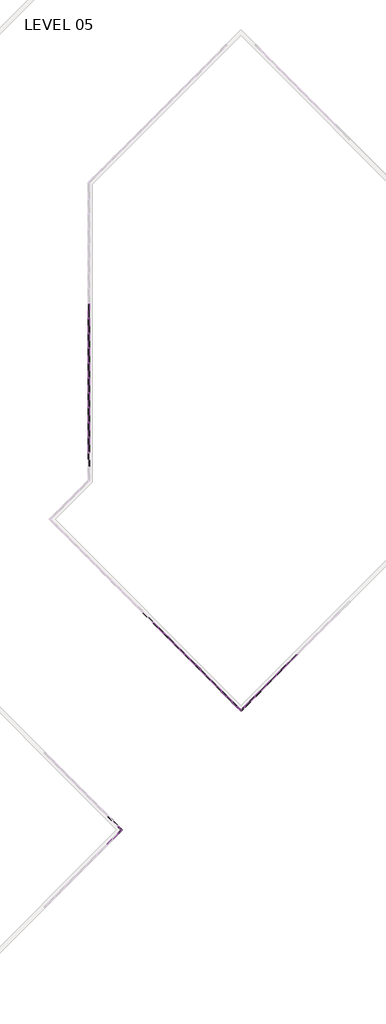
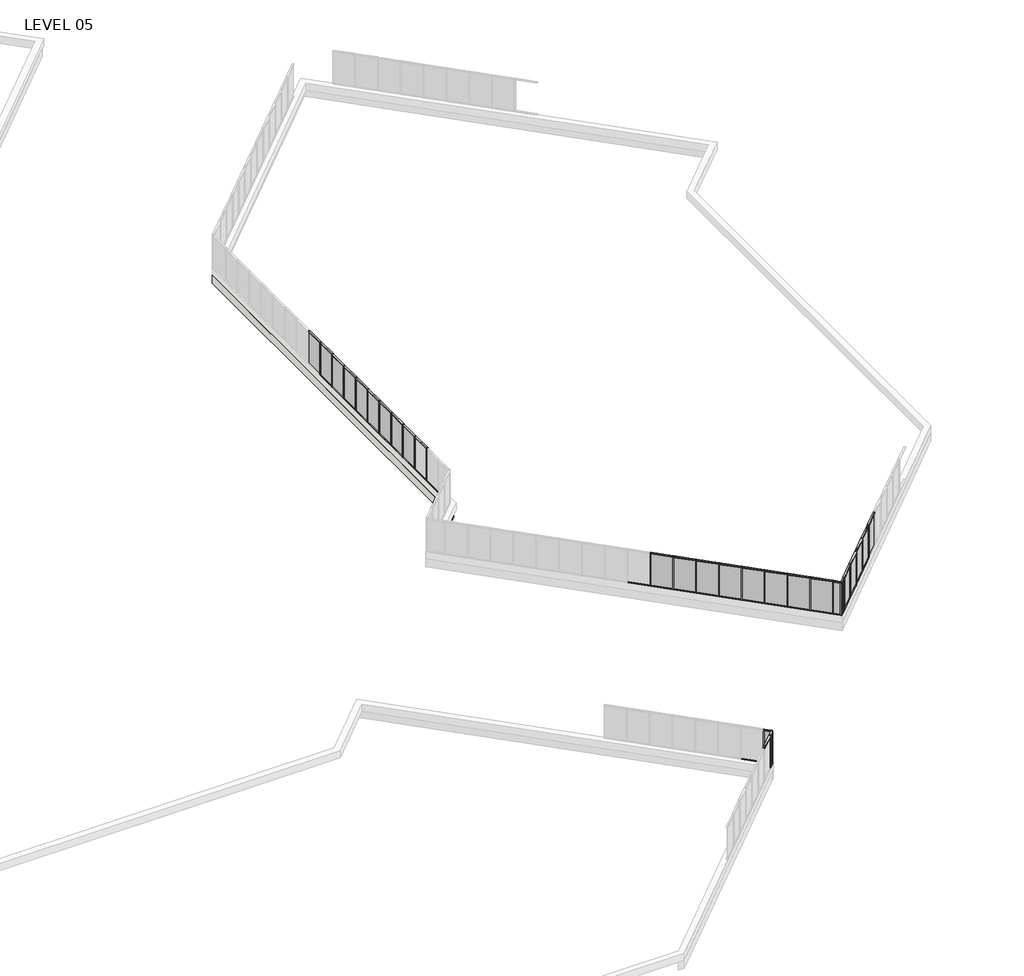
# One storey, part 10 of 17: 86 members, 26 plates, 1 wall.
"""IFC4 building model written with IfcOpenShell, lengths in millimetres."""

from ifc_helpers import new_model, si_unit, origin, place, context, project, spatial, faceted_brep, transform, mapped, element, save
from components import member_5247f267, member_e44af9ab, member_800970d4, member_ac5115e9, member_25b26a38, member_910c08c9, plate_c01932d8, plate_6d527a83, plate_67294edd

model = new_model("IFC4")

# Units and contexts
model_context = context("Model", 3, world=origin())
ifc_project = project(units=[si_unit("LENGTHUNIT", "METRE", prefix="MILLI")], contexts=[model_context])

# Site, building, storey
site = spatial("IfcSite", under=ifc_project)
building = spatial("IfcBuilding", under=site)
storey = spatial("IfcBuildingStorey", under=building, Name="LEVEL 05", Elevation=15824.2)

# Members
placement = place(None, origin())
member_shape = member_5247f267(model_context)
element("IfcMember", 1, ObjectType="Rectangular Mullion : 2\" x 4.5\" rectangular", at=placement, inside=storey, context=model_context, shape_type="MappedRepresentation", body=[
    mapped(member_shape, transform((64227.3404937, 10894.4485141, 15824.2), x_axis=(0.0, 0.0, -1.0), y_axis=(0.7071067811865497, 0.7071067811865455, 0.0), z_axis=(0.7071067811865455, -0.7071067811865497, 0.0))),
])
element("IfcMember", 2, ObjectType="Rectangular Mullion : 2\" x 4.5\" rectangular", at=placement, inside=storey, context=model_context, shape_type="MappedRepresentation", body=[
    mapped(member_shape, transform((64227.5191663, 10093.8459028, 18415.0), x_axis=(0.0, 0.0, 1.0), y_axis=(0.7071067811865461, -0.7071067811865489, 0.0), z_axis=(0.7071067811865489, 0.7071067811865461, 0.0))),
])
member_2_shape = member_e44af9ab(model_context)
element("IfcMember", 3, ObjectType="Rectangular Mullion : 2\" x 4.5\" rectangular", at=placement, inside=storey, context=model_context, shape_type="MappedRepresentation", body=[
    mapped(member_2_shape, transform((64245.4796786, 10111.8064151, 15824.2), x_axis=(0.7071067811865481, 0.7071067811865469, 0.0), y_axis=(0.7071067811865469, -0.7071067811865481, 0.0), z_axis=(0.0, 0.0, -1.0))),
])
element("IfcMember", 4, ObjectType="Rectangular Mullion : 2\" x 4.5\" rectangular", at=placement, inside=storey, context=model_context, shape_type="MappedRepresentation", body=[
    mapped(member_2_shape, transform((64245.3010059, 10876.4880018, 15824.2), x_axis=(-0.7071067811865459, 0.7071067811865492, 0.0), y_axis=(0.7071067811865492, 0.7071067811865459, 0.0), z_axis=(0.0, 0.0, -1.0))),
])
member_3_shape = member_800970d4(model_context)
element("IfcMember", 5, ObjectType="Rectangular Mullion : 2\" x 4.5\" rectangular", at=placement, inside=storey, context=model_context, shape_type="MappedRepresentation", body=[
    mapped(member_3_shape, transform((64627.7311356, 10494.0578721, 15824.2), x_axis=(0.7071067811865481, 0.7071067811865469, 0.0), y_axis=(0.7071067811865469, -0.7071067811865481, 0.0), z_axis=(0.0, 0.0, -1.0))),
])
element("IfcMember", 6, ObjectType="Rectangular Mullion : 2\" x 4.5\" rectangular", at=placement, inside=storey, context=model_context, shape_type="MappedRepresentation", body=[
    mapped(member_3_shape, transform((64627.7311356, 10494.0578721, 18415.0), x_axis=(0.7071067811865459, -0.7071067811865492, 0.0), y_axis=(0.7071067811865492, 0.7071067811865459, 0.0), z_axis=(0.0, 0.0, 1.0))),
])
member_4_shape = member_ac5115e9(model_context)
element("IfcMember", 7, ObjectType="Rectangular Mullion : 2\" x 4.5\" rectangular", at=placement, inside=storey, context=model_context, shape_type="MappedRepresentation", body=[
    mapped(member_4_shape, transform((64591.8101111, 10458.1368476, 18415.0), x_axis=(0.0, 0.0, 1.0), y_axis=(0.7071067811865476, -0.7071067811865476, 0.0), z_axis=(0.7071067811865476, 0.7071067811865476, 0.0))),
])
element("IfcMember", 8, ObjectType="Rectangular Mullion : 2\" x 4.5\" rectangular", at=placement, inside=storey, context=model_context, shape_type="MappedRepresentation", body=[
    mapped(member_4_shape, transform((64263.4401908, 10129.7669273, 15824.2), x_axis=(0.0, 0.0, -1.0), y_axis=(0.7071067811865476, -0.7071067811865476, 0.0), z_axis=(-0.7071067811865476, -0.7071067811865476, 0.0))),
])
member_5_shape = member_25b26a38(model_context)
element("IfcMember", 9, ObjectType="Rectangular Mullion : 2\" x 4.5\" rectangular", at=placement, inside=storey, context=model_context, shape_type="MappedRepresentation", body=[
    mapped(member_5_shape, transform((64591.8101111, 10529.9788966, 15824.2), x_axis=(0.0, 0.0, -1.0), y_axis=(0.7071067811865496, 0.7071067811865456, 0.0), z_axis=(0.7071067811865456, -0.7071067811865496, 0.0))),
])
element("IfcMember", 10, ObjectType="Rectangular Mullion : 2\" x 4.5\" rectangular", at=placement, inside=storey, context=model_context, shape_type="MappedRepresentation", body=[
    mapped(member_5_shape, transform((64263.2615182, 10858.5274896, 18415.0), x_axis=(0.0, 0.0, 1.0), y_axis=(0.7071067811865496, 0.7071067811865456, 0.0), z_axis=(-0.7071067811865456, 0.7071067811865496, 0.0))),
])
element("IfcMember", 11, ObjectType="Rectangular Mullion : 2\" x 4.5\" rectangular", at=placement, inside=storey, context=model_context, shape_type="MappedRepresentation", body=[
    mapped(member_shape, transform((78327.7024202, 24194.0291567, 18415.0), x_axis=(0.0, 0.0, 1.0), y_axis=(-0.7071067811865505, 0.7071067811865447, 0.0), z_axis=(-0.7071067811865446, -0.7071067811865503, 0.0))),
])
element("IfcMember", 12, ObjectType="Rectangular Mullion : 2\" x 4.5\" rectangular", at=placement, inside=storey, context=model_context, shape_type="MappedRepresentation", body=[
    mapped(member_shape, transform((81560.5946238, 27426.9213603, 18415.0), x_axis=(0.0, 0.0, 1.0), y_axis=(-0.7071067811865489, 0.7071067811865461, 0.0), z_axis=(-0.7071067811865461, -0.7071067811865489, 0.0))),
])
element("IfcMember", 13, ObjectType="Rectangular Mullion : 2\" x 4.5\" rectangular", at=placement, inside=storey, context=model_context, shape_type="MappedRepresentation", body=[
    mapped(member_shape, transform((80482.9638893, 26349.2906258, 18415.0), x_axis=(0.0, 0.0, 1.0), y_axis=(-0.7071067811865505, 0.7071067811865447, 0.0), z_axis=(-0.7071067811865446, -0.7071067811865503, 0.0))),
])
element("IfcMember", 14, ObjectType="Rectangular Mullion : 2\" x 4.5\" rectangular", at=placement, inside=storey, context=model_context, shape_type="MappedRepresentation", body=[
    mapped(member_shape, transform((79405.3331548, 25271.6598913, 18415.0), x_axis=(0.0, 0.0, 1.0), y_axis=(-0.7071067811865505, 0.7071067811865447, 0.0), z_axis=(-0.7071067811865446, -0.7071067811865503, 0.0))),
])
element("IfcMember", 15, ObjectType="Rectangular Mullion : 2\" x 4.5\" rectangular", at=placement, inside=storey, context=model_context, shape_type="MappedRepresentation", body=[
    mapped(member_shape, transform((77250.0716857, 23116.3984222, 18415.0), x_axis=(0.0, 0.0, 1.0), y_axis=(-0.7071067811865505, 0.7071067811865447, 0.0), z_axis=(-0.7071067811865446, -0.7071067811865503, 0.0))),
])
element("IfcMember", 16, ObjectType="Rectangular Mullion : 2\" x 4.5\" rectangular", at=placement, inside=storey, context=model_context, shape_type="MappedRepresentation", body=[
    mapped(member_shape, transform((75407.7593644, 24158.2868049, 18415.0), x_axis=(0.0, 0.0, 1.0), y_axis=(0.7071067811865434, 0.7071067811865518, 0.0), z_axis=(-0.7071067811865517, 0.7071067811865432, 0.0))),
])
element("IfcMember", 17, ObjectType="Rectangular Mullion : 2\" x 4.5\" rectangular", at=placement, inside=storey, context=model_context, shape_type="MappedRepresentation", body=[
    mapped(member_shape, transform((74330.1286299, 25235.9175394, 18415.0), x_axis=(0.0, 0.0, 1.0), y_axis=(0.7071067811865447, 0.7071067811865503, 0.0), z_axis=(-0.7071067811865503, 0.7071067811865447, 0.0))),
])
element("IfcMember", 18, ObjectType="Rectangular Mullion : 2\" x 4.5\" rectangular", at=placement, inside=storey, context=model_context, shape_type="MappedRepresentation", body=[
    mapped(member_shape, transform((73252.4978954, 26313.5482739, 18415.0), x_axis=(0.0, 0.0, 1.0), y_axis=(0.7071067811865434, 0.7071067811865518, 0.0), z_axis=(-0.7071067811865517, 0.7071067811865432, 0.0))),
])
element("IfcMember", 19, ObjectType="Rectangular Mullion : 2\" x 4.5\" rectangular", at=placement, inside=storey, context=model_context, shape_type="MappedRepresentation", body=[
    mapped(member_shape, transform((71097.2364263, 28468.809743, 18415.0), x_axis=(0.0, 0.0, 1.0), y_axis=(0.7071067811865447, 0.7071067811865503, 0.0), z_axis=(-0.7071067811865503, 0.7071067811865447, 0.0))),
])
element("IfcMember", 20, ObjectType="Rectangular Mullion : 2\" x 4.5\" rectangular", at=placement, inside=storey, context=model_context, shape_type="MappedRepresentation", body=[
    mapped(member_shape, transform((70019.6056918, 29546.4404775, 18415.0), x_axis=(0.0, 0.0, 1.0), y_axis=(0.7071067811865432, 0.7071067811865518, 0.0), z_axis=(-0.7071067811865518, 0.7071067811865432, 0.0))),
])
element("IfcMember", 21, ObjectType="Rectangular Mullion : 2\" x 4.5\" rectangular", at=placement, inside=storey, context=model_context, shape_type="MappedRepresentation", body=[
    mapped(member_shape, transform((68941.9749572, 30624.071212, 18415.0), x_axis=(0.0, 0.0, 1.0), y_axis=(0.7071067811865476, 0.7071067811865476, 0.0), z_axis=(-0.7071067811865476, 0.7071067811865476, 0.0))),
])
element("IfcMember", 22, ObjectType="Rectangular Mullion : 2\" x 4.5\" rectangular", at=placement, inside=storey, context=model_context, shape_type="MappedRepresentation", body=[
    mapped(member_shape, transform((67864.3442227, 31701.7019466, 18415.0), x_axis=(0.0, 0.0, 1.0), y_axis=(0.7071067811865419, 0.7071067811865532, 0.0), z_axis=(-0.7071067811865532, 0.7071067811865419, 0.0))),
])
element("IfcMember", 23, ObjectType="Rectangular Mullion : 2\" x 4.5\" rectangular", at=placement, inside=storey, context=model_context, shape_type="MappedRepresentation", body=[
    mapped(member_shape, transform((72174.8671608, 27391.1790085, 18415.0), x_axis=(0.0, 0.0, 1.0), y_axis=(0.7071067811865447, 0.7071067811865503, 0.0), z_axis=(-0.7071067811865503, 0.7071067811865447, 0.0))),
])
element("IfcMember", 24, ObjectType="Rectangular Mullion : 2\" x 4.5\" rectangular", at=placement, inside=storey, context=model_context, shape_type="MappedRepresentation", body=[
    mapped(member_shape, transform((61263.7847164, 62877.3675885, 18415.0), x_axis=(0.0, 0.0, 1.0), y_axis=(-1.0, 0.0, 0.0), z_axis=(0.0, -1.0, 0.0))),
])
element("IfcMember", 25, ObjectType="Rectangular Mullion : 2\" x 4.5\" rectangular", at=placement, inside=storey, context=model_context, shape_type="MappedRepresentation", body=[
    mapped(member_shape, transform((61263.7847164, 59829.3675885, 18415.0), x_axis=(0.0, 0.0, 1.0), y_axis=(-1.0, 0.0, 0.0), z_axis=(0.0, -1.0, 0.0))),
])
element("IfcMember", 26, ObjectType="Rectangular Mullion : 2\" x 4.5\" rectangular", at=placement, inside=storey, context=model_context, shape_type="MappedRepresentation", body=[
    mapped(member_shape, transform((61263.7847164, 58305.3675885, 18415.0), x_axis=(0.0, 0.0, 1.0), y_axis=(-1.0, 0.0, 0.0), z_axis=(0.0, -1.0, 0.0))),
])
element("IfcMember", 27, ObjectType="Rectangular Mullion : 2\" x 4.5\" rectangular", at=placement, inside=storey, context=model_context, shape_type="MappedRepresentation", body=[
    mapped(member_shape, transform((61263.7847164, 56781.3675885, 18415.0), x_axis=(0.0, 0.0, 1.0), y_axis=(-1.0, 0.0, 0.0), z_axis=(0.0, -1.0, 0.0))),
])
element("IfcMember", 28, ObjectType="Rectangular Mullion : 2\" x 4.5\" rectangular", at=placement, inside=storey, context=model_context, shape_type="MappedRepresentation", body=[
    mapped(member_shape, transform((61263.7847164, 55257.3675885, 18415.0), x_axis=(0.0, 0.0, 1.0), y_axis=(-1.0, 0.0, 0.0), z_axis=(0.0, -1.0, 0.0))),
])
element("IfcMember", 29, ObjectType="Rectangular Mullion : 2\" x 4.5\" rectangular", at=placement, inside=storey, context=model_context, shape_type="MappedRepresentation", body=[
    mapped(member_shape, transform((61263.7847164, 52209.3675885, 18415.0), x_axis=(0.0, 0.0, 1.0), y_axis=(-1.0, 0.0, 0.0), z_axis=(0.0, -1.0, 0.0))),
])
element("IfcMember", 30, ObjectType="Rectangular Mullion : 2\" x 4.5\" rectangular", at=placement, inside=storey, context=model_context, shape_type="MappedRepresentation", body=[
    mapped(member_shape, transform((61263.7847164, 50685.3675885, 18415.0), x_axis=(0.0, 0.0, 1.0), y_axis=(-1.0, 0.0, 0.0), z_axis=(0.0, -1.0, 0.0))),
])
element("IfcMember", 31, ObjectType="Rectangular Mullion : 2\" x 4.5\" rectangular", at=placement, inside=storey, context=model_context, shape_type="MappedRepresentation", body=[
    mapped(member_shape, transform((61263.7847164, 49161.3675885, 18415.0), x_axis=(0.0, 0.0, 1.0), y_axis=(-1.0, 0.0, 0.0), z_axis=(0.0, -1.0, 0.0))),
])
element("IfcMember", 32, ObjectType="Rectangular Mullion : 2\" x 4.5\" rectangular", at=placement, inside=storey, context=model_context, shape_type="MappedRepresentation", body=[
    mapped(member_shape, transform((61263.7847164, 53733.3675885, 18415.0), x_axis=(0.0, 0.0, 1.0), y_axis=(-1.0, 0.0, 0.0), z_axis=(0.0, -1.0, 0.0))),
])
element("IfcMember", 33, ObjectType="Rectangular Mullion : 2\" x 4.5\" rectangular", at=placement, inside=storey, context=model_context, shape_type="MappedRepresentation", body=[
    mapped(member_shape, transform((61263.7847164, 61353.3675885, 18415.0), x_axis=(0.0, 0.0, 1.0), y_axis=(-1.0, 0.0, 0.0), z_axis=(0.0, -1.0, 0.0))),
])
element("IfcMember", 34, ObjectType="Rectangular Mullion : 2\" x 4.5\" rectangular", at=placement, inside=storey, context=model_context, shape_type="MappedRepresentation", body=[
    mapped(member_shape, transform((78291.7813957, 24158.1081322, 15824.2), x_axis=(0.0, 0.0, -1.0), y_axis=(-0.7071067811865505, 0.7071067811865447, 0.0), z_axis=(0.7071067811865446, 0.7071067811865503, 0.0))),
])
element("IfcMember", 35, ObjectType="Rectangular Mullion : 2\" x 4.5\" rectangular", at=placement, inside=storey, context=model_context, shape_type="MappedRepresentation", body=[
    mapped(member_shape, transform((81524.6735993, 27391.0003358, 15824.2), x_axis=(0.0, 0.0, -1.0), y_axis=(-0.707106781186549, 0.7071067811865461, 0.0), z_axis=(0.7071067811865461, 0.707106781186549, 0.0))),
])
element("IfcMember", 36, ObjectType="Rectangular Mullion : 2\" x 4.5\" rectangular", at=placement, inside=storey, context=model_context, shape_type="MappedRepresentation", body=[
    mapped(member_shape, transform((80447.0428648, 26313.3696013, 15824.2), x_axis=(0.0, 0.0, -1.0), y_axis=(-0.7071067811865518, 0.7071067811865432, 0.0), z_axis=(0.7071067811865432, 0.7071067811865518, 0.0))),
])
element("IfcMember", 37, ObjectType="Rectangular Mullion : 2\" x 4.5\" rectangular", at=placement, inside=storey, context=model_context, shape_type="MappedRepresentation", body=[
    mapped(member_shape, transform((79369.4121303, 25235.7388668, 15824.2), x_axis=(0.0, 0.0, -1.0), y_axis=(-0.7071067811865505, 0.7071067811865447, 0.0), z_axis=(0.7071067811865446, 0.7071067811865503, 0.0))),
])
element("IfcMember", 38, ObjectType="Rectangular Mullion : 2\" x 4.5\" rectangular", at=placement, inside=storey, context=model_context, shape_type="MappedRepresentation", body=[
    mapped(member_shape, transform((75371.8383399, 24194.2078294, 15824.2), x_axis=(0.0, 0.0, -1.0), y_axis=(0.7071067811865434, 0.7071067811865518, 0.0), z_axis=(0.7071067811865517, -0.7071067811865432, 0.0))),
])
element("IfcMember", 39, ObjectType="Rectangular Mullion : 2\" x 4.5\" rectangular", at=placement, inside=storey, context=model_context, shape_type="MappedRepresentation", body=[
    mapped(member_shape, transform((74294.2076054, 25271.8385639, 15824.2), x_axis=(0.0, 0.0, -1.0), y_axis=(0.7071067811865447, 0.7071067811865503, 0.0), z_axis=(0.7071067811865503, -0.7071067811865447, 0.0))),
])
element("IfcMember", 40, ObjectType="Rectangular Mullion : 2\" x 4.5\" rectangular", at=placement, inside=storey, context=model_context, shape_type="MappedRepresentation", body=[
    mapped(member_shape, transform((73216.5768709, 26349.4692984, 15824.2), x_axis=(0.0, 0.0, -1.0), y_axis=(0.7071067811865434, 0.7071067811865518, 0.0), z_axis=(0.7071067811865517, -0.7071067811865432, 0.0))),
])
element("IfcMember", 41, ObjectType="Rectangular Mullion : 2\" x 4.5\" rectangular", at=placement, inside=storey, context=model_context, shape_type="MappedRepresentation", body=[
    mapped(member_shape, transform((71061.3154018, 28504.7307675, 15824.2), x_axis=(0.0, 0.0, -1.0), y_axis=(0.7071067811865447, 0.7071067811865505, 0.0), z_axis=(0.7071067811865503, -0.7071067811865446, 0.0))),
])
element("IfcMember", 42, ObjectType="Rectangular Mullion : 2\" x 4.5\" rectangular", at=placement, inside=storey, context=model_context, shape_type="MappedRepresentation", body=[
    mapped(member_shape, transform((69983.6846673, 29582.361502, 15824.2), x_axis=(0.0, 0.0, -1.0), y_axis=(0.7071067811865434, 0.7071067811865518, 0.0), z_axis=(0.7071067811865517, -0.7071067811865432, 0.0))),
])
element("IfcMember", 43, ObjectType="Rectangular Mullion : 2\" x 4.5\" rectangular", at=placement, inside=storey, context=model_context, shape_type="MappedRepresentation", body=[
    mapped(member_shape, transform((68906.0539328, 30659.9922365, 15824.2), x_axis=(0.0, 0.0, -1.0), y_axis=(0.7071067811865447, 0.7071067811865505, 0.0), z_axis=(0.7071067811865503, -0.7071067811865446, 0.0))),
])
element("IfcMember", 44, ObjectType="Rectangular Mullion : 2\" x 4.5\" rectangular", at=placement, inside=storey, context=model_context, shape_type="MappedRepresentation", body=[
    mapped(member_shape, transform((72138.9461363, 27427.1000329, 15824.2), x_axis=(0.0, 0.0, -1.0), y_axis=(0.7071067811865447, 0.7071067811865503, 0.0), z_axis=(0.7071067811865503, -0.7071067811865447, 0.0))),
])
element("IfcMember", 45, ObjectType="Rectangular Mullion : 2\" x 4.5\" rectangular", at=placement, inside=storey, context=model_context, shape_type="MappedRepresentation", body=[
    mapped(member_shape, transform((76449.4690745, 23116.5770948, 15824.2), x_axis=(0.0, 0.0, -1.0), y_axis=(0.7071067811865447, 0.7071067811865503, 0.0), z_axis=(0.7071067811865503, -0.7071067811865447, 0.0))),
])
element("IfcMember", 46, ObjectType="Rectangular Mullion : 2\" x 4.5\" rectangular", at=placement, inside=storey, context=model_context, shape_type="MappedRepresentation", body=[
    mapped(member_shape, transform((61263.7847164, 62826.5675885, 15824.2), x_axis=(0.0, 0.0, -1.0), y_axis=(-1.0, 0.0, 0.0), z_axis=(0.0, 1.0, 0.0))),
])
element("IfcMember", 47, ObjectType="Rectangular Mullion : 2\" x 4.5\" rectangular", at=placement, inside=storey, context=model_context, shape_type="MappedRepresentation", body=[
    mapped(member_shape, transform((61263.7847164, 59778.5675885, 15824.2), x_axis=(0.0, 0.0, -1.0), y_axis=(-1.0, 0.0, 0.0), z_axis=(0.0, 1.0, 0.0))),
])
element("IfcMember", 48, ObjectType="Rectangular Mullion : 2\" x 4.5\" rectangular", at=placement, inside=storey, context=model_context, shape_type="MappedRepresentation", body=[
    mapped(member_shape, transform((61263.7847164, 58254.5675885, 15824.2), x_axis=(0.0, 0.0, -1.0), y_axis=(-1.0, 0.0, 0.0), z_axis=(0.0, 1.0, 0.0))),
])
element("IfcMember", 49, ObjectType="Rectangular Mullion : 2\" x 4.5\" rectangular", at=placement, inside=storey, context=model_context, shape_type="MappedRepresentation", body=[
    mapped(member_shape, transform((61263.7847164, 56730.5675885, 15824.2), x_axis=(0.0, 0.0, -1.0), y_axis=(-1.0, 0.0, 0.0), z_axis=(0.0, 1.0, 0.0))),
])
element("IfcMember", 50, ObjectType="Rectangular Mullion : 2\" x 4.5\" rectangular", at=placement, inside=storey, context=model_context, shape_type="MappedRepresentation", body=[
    mapped(member_shape, transform((61263.7847164, 55206.5675885, 15824.2), x_axis=(0.0, 0.0, -1.0), y_axis=(-1.0, 0.0, 0.0), z_axis=(0.0, 1.0, 0.0))),
])
element("IfcMember", 51, ObjectType="Rectangular Mullion : 2\" x 4.5\" rectangular", at=placement, inside=storey, context=model_context, shape_type="MappedRepresentation", body=[
    mapped(member_shape, transform((61263.7847164, 52158.5675885, 15824.2), x_axis=(0.0, 0.0, -1.0), y_axis=(-1.0, 0.0, 0.0), z_axis=(0.0, 1.0, 0.0))),
])
element("IfcMember", 52, ObjectType="Rectangular Mullion : 2\" x 4.5\" rectangular", at=placement, inside=storey, context=model_context, shape_type="MappedRepresentation", body=[
    mapped(member_shape, transform((61263.7847164, 50634.5675885, 15824.2), x_axis=(0.0, 0.0, -1.0), y_axis=(-1.0, 0.0, 0.0), z_axis=(0.0, 1.0, 0.0))),
])
element("IfcMember", 53, ObjectType="Rectangular Mullion : 2\" x 4.5\" rectangular", at=placement, inside=storey, context=model_context, shape_type="MappedRepresentation", body=[
    mapped(member_shape, transform((61263.7847164, 49110.5675885, 15824.2), x_axis=(0.0, 0.0, -1.0), y_axis=(-1.0, 0.0, 0.0), z_axis=(0.0, 1.0, 0.0))),
])
element("IfcMember", 54, ObjectType="Rectangular Mullion : 2\" x 4.5\" rectangular", at=placement, inside=storey, context=model_context, shape_type="MappedRepresentation", body=[
    mapped(member_shape, transform((61263.7847164, 53682.5675885, 15824.2), x_axis=(0.0, 0.0, -1.0), y_axis=(-1.0, 0.0, 0.0), z_axis=(0.0, 1.0, 0.0))),
])
element("IfcMember", 55, ObjectType="Rectangular Mullion : 2\" x 4.5\" rectangular", at=placement, inside=storey, context=model_context, shape_type="MappedRepresentation", body=[
    mapped(member_shape, transform((61263.7847164, 61302.5675885, 15824.2), x_axis=(0.0, 0.0, -1.0), y_axis=(-1.0, 0.0, 0.0), z_axis=(0.0, 1.0, 0.0))),
])
element("IfcMember", 56, ObjectType="Rectangular Mullion : 2\" x 4.5\" rectangular", at=placement, inside=storey, context=model_context, shape_type="MappedRepresentation", body=[
    mapped(member_2_shape, transform((78309.741908, 24176.0686445, 15824.2), x_axis=(-0.7071067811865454, -0.7071067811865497, 0.0), y_axis=(-0.7071067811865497, 0.7071067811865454, 0.0), z_axis=(0.0, 0.0, -1.0))),
])
element("IfcMember", 57, ObjectType="Rectangular Mullion : 2\" x 4.5\" rectangular", at=placement, inside=storey, context=model_context, shape_type="MappedRepresentation", body=[
    mapped(member_2_shape, transform((81542.6341116, 27408.9608481, 15824.2), x_axis=(-0.7071067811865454, -0.7071067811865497, 0.0), y_axis=(-0.7071067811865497, 0.7071067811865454, 0.0), z_axis=(0.0, 0.0, -1.0))),
])
element("IfcMember", 58, ObjectType="Rectangular Mullion : 2\" x 4.5\" rectangular", at=placement, inside=storey, context=model_context, shape_type="MappedRepresentation", body=[
    mapped(member_2_shape, transform((80465.003377, 26331.3301135, 15824.2), x_axis=(-0.7071067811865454, -0.7071067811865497, 0.0), y_axis=(-0.7071067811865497, 0.7071067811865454, 0.0), z_axis=(0.0, 0.0, -1.0))),
])
element("IfcMember", 59, ObjectType="Rectangular Mullion : 2\" x 4.5\" rectangular", at=placement, inside=storey, context=model_context, shape_type="MappedRepresentation", body=[
    mapped(member_2_shape, transform((79387.3726425, 25253.699379, 15824.2), x_axis=(-0.7071067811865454, -0.7071067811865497, 0.0), y_axis=(-0.7071067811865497, 0.7071067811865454, 0.0), z_axis=(0.0, 0.0, -1.0))),
])
element("IfcMember", 60, ObjectType="Rectangular Mullion : 2\" x 4.5\" rectangular", at=placement, inside=storey, context=model_context, shape_type="MappedRepresentation", body=[
    mapped(member_2_shape, transform((77232.1111735, 23098.43791, 15824.2), x_axis=(-0.7071067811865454, -0.7071067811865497, 0.0), y_axis=(-0.7071067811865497, 0.7071067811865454, 0.0), z_axis=(0.0, 0.0, -1.0))),
])
element("IfcMember", 61, ObjectType="Rectangular Mullion : 2\" x 4.5\" rectangular", at=placement, inside=storey, context=model_context, shape_type="MappedRepresentation", body=[
    mapped(member_2_shape, transform((75389.7988522, 24176.2473171, 15824.2), x_axis=(-0.7071067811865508, 0.7071067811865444, 0.0), y_axis=(0.7071067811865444, 0.7071067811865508, 0.0), z_axis=(0.0, 0.0, -1.0))),
])
element("IfcMember", 62, ObjectType="Rectangular Mullion : 2\" x 4.5\" rectangular", at=placement, inside=storey, context=model_context, shape_type="MappedRepresentation", body=[
    mapped(member_2_shape, transform((74312.1681176, 25253.8780517, 15824.2), x_axis=(-0.7071067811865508, 0.7071067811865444, 0.0), y_axis=(0.7071067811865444, 0.7071067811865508, 0.0), z_axis=(0.0, 0.0, -1.0))),
])
element("IfcMember", 63, ObjectType="Rectangular Mullion : 2\" x 4.5\" rectangular", at=placement, inside=storey, context=model_context, shape_type="MappedRepresentation", body=[
    mapped(member_2_shape, transform((73234.5373831, 26331.5087862, 15824.2), x_axis=(-0.7071067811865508, 0.7071067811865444, 0.0), y_axis=(0.7071067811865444, 0.7071067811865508, 0.0), z_axis=(0.0, 0.0, -1.0))),
])
element("IfcMember", 64, ObjectType="Rectangular Mullion : 2\" x 4.5\" rectangular", at=placement, inside=storey, context=model_context, shape_type="MappedRepresentation", body=[
    mapped(member_2_shape, transform((71079.2759141, 28486.7702552, 15824.2), x_axis=(-0.7071067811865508, 0.7071067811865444, 0.0), y_axis=(0.7071067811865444, 0.7071067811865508, 0.0), z_axis=(0.0, 0.0, -1.0))),
])
element("IfcMember", 65, ObjectType="Rectangular Mullion : 2\" x 4.5\" rectangular", at=placement, inside=storey, context=model_context, shape_type="MappedRepresentation", body=[
    mapped(member_2_shape, transform((70001.6451795, 29564.4009898, 15824.2), x_axis=(-0.7071067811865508, 0.7071067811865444, 0.0), y_axis=(0.7071067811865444, 0.7071067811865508, 0.0), z_axis=(0.0, 0.0, -1.0))),
])
element("IfcMember", 66, ObjectType="Rectangular Mullion : 2\" x 4.5\" rectangular", at=placement, inside=storey, context=model_context, shape_type="MappedRepresentation", body=[
    mapped(member_2_shape, transform((68924.014445, 30642.0317243, 15824.2), x_axis=(-0.7071067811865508, 0.7071067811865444, 0.0), y_axis=(0.7071067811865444, 0.7071067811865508, 0.0), z_axis=(0.0, 0.0, -1.0))),
])
element("IfcMember", 67, ObjectType="Rectangular Mullion : 2\" x 4.5\" rectangular", at=placement, inside=storey, context=model_context, shape_type="MappedRepresentation", body=[
    mapped(member_2_shape, transform((67846.3837105, 31719.6624588, 15824.2), x_axis=(-0.7071067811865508, 0.7071067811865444, 0.0), y_axis=(0.7071067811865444, 0.7071067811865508, 0.0), z_axis=(0.0, 0.0, -1.0))),
])
element("IfcMember", 68, ObjectType="Rectangular Mullion : 2\" x 4.5\" rectangular", at=placement, inside=storey, context=model_context, shape_type="MappedRepresentation", body=[
    mapped(member_2_shape, transform((72156.9066486, 27409.1395207, 15824.2), x_axis=(-0.7071067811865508, 0.7071067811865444, 0.0), y_axis=(0.7071067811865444, 0.7071067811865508, 0.0), z_axis=(0.0, 0.0, -1.0))),
])
element("IfcMember", 69, ObjectType="Rectangular Mullion : 2\" x 4.5\" rectangular", at=placement, inside=storey, context=model_context, shape_type="MappedRepresentation", body=[
    mapped(member_2_shape, transform((76467.4295867, 23098.6165826, 15824.2), x_axis=(-0.7071067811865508, 0.7071067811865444, 0.0), y_axis=(0.7071067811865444, 0.7071067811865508, 0.0), z_axis=(0.0, 0.0, -1.0))),
])
element("IfcMember", 70, ObjectType="Rectangular Mullion : 2\" x 4.5\" rectangular", at=placement, inside=storey, context=model_context, shape_type="MappedRepresentation", body=[
    mapped(member_2_shape, transform((61263.7847164, 62851.9675885, 15824.2), x_axis=(0.0, -1.0, 0.0), y_axis=(-1.0, 0.0, 0.0), z_axis=(0.0, 0.0, -1.0))),
])
element("IfcMember", 71, ObjectType="Rectangular Mullion : 2\" x 4.5\" rectangular", at=placement, inside=storey, context=model_context, shape_type="MappedRepresentation", body=[
    mapped(member_2_shape, transform((61263.7847164, 59803.9675885, 15824.2), x_axis=(0.0, -1.0, 0.0), y_axis=(-1.0, 0.0, 0.0), z_axis=(0.0, 0.0, -1.0))),
])
element("IfcMember", 72, ObjectType="Rectangular Mullion : 2\" x 4.5\" rectangular", at=placement, inside=storey, context=model_context, shape_type="MappedRepresentation", body=[
    mapped(member_2_shape, transform((61263.7847164, 58279.9675885, 15824.2), x_axis=(0.0, -1.0, 0.0), y_axis=(-1.0, 0.0, 0.0), z_axis=(0.0, 0.0, -1.0))),
])
element("IfcMember", 73, ObjectType="Rectangular Mullion : 2\" x 4.5\" rectangular", at=placement, inside=storey, context=model_context, shape_type="MappedRepresentation", body=[
    mapped(member_2_shape, transform((61263.7847164, 56755.9675885, 15824.2), x_axis=(0.0, -1.0, 0.0), y_axis=(-1.0, 0.0, 0.0), z_axis=(0.0, 0.0, -1.0))),
])
element("IfcMember", 74, ObjectType="Rectangular Mullion : 2\" x 4.5\" rectangular", at=placement, inside=storey, context=model_context, shape_type="MappedRepresentation", body=[
    mapped(member_2_shape, transform((61263.7847164, 55231.9675885, 15824.2), x_axis=(0.0, -1.0, 0.0), y_axis=(-1.0, 0.0, 0.0), z_axis=(0.0, 0.0, -1.0))),
])
element("IfcMember", 75, ObjectType="Rectangular Mullion : 2\" x 4.5\" rectangular", at=placement, inside=storey, context=model_context, shape_type="MappedRepresentation", body=[
    mapped(member_2_shape, transform((61263.7847164, 52183.9675885, 15824.2), x_axis=(0.0, -1.0, 0.0), y_axis=(-1.0, 0.0, 0.0), z_axis=(0.0, 0.0, -1.0))),
])
element("IfcMember", 76, ObjectType="Rectangular Mullion : 2\" x 4.5\" rectangular", at=placement, inside=storey, context=model_context, shape_type="MappedRepresentation", body=[
    mapped(member_2_shape, transform((61263.7847164, 50659.9675885, 15824.2), x_axis=(0.0, -1.0, 0.0), y_axis=(-1.0, 0.0, 0.0), z_axis=(0.0, 0.0, -1.0))),
])
element("IfcMember", 77, ObjectType="Rectangular Mullion : 2\" x 4.5\" rectangular", at=placement, inside=storey, context=model_context, shape_type="MappedRepresentation", body=[
    mapped(member_2_shape, transform((61263.7847164, 49135.9675885, 15824.2), x_axis=(0.0, -1.0, 0.0), y_axis=(-1.0, 0.0, 0.0), z_axis=(0.0, 0.0, -1.0))),
])
element("IfcMember", 78, ObjectType="Rectangular Mullion : 2\" x 4.5\" rectangular", at=placement, inside=storey, context=model_context, shape_type="MappedRepresentation", body=[
    mapped(member_2_shape, transform((61263.7847164, 53707.9675885, 15824.2), x_axis=(0.0, -1.0, 0.0), y_axis=(-1.0, 0.0, 0.0), z_axis=(0.0, 0.0, -1.0))),
])
element("IfcMember", 79, ObjectType="Rectangular Mullion : 2\" x 4.5\" rectangular", at=placement, inside=storey, context=model_context, shape_type="MappedRepresentation", body=[
    mapped(member_2_shape, transform((61263.7847164, 61327.9675885, 15824.2), x_axis=(0.0, -1.0, 0.0), y_axis=(-1.0, 0.0, 0.0), z_axis=(0.0, 0.0, -1.0))),
])
element("IfcMember", 80, ObjectType="Rectangular Mullion : 2\" x 4.5\" rectangular", at=placement, inside=storey, context=model_context, shape_type="MappedRepresentation", body=[
    mapped(member_3_shape, transform((76849.8597164, 22716.1864529, 15824.2), x_axis=(-0.7071067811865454, -0.7071067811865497, 0.0), y_axis=(-0.7071067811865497, 0.7071067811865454, 0.0), z_axis=(0.0, 0.0, -1.0))),
])
element("IfcMember", 81, ObjectType="Rectangular Mullion : 2\" x 4.5\" rectangular", at=placement, inside=storey, context=model_context, shape_type="MappedRepresentation", body=[
    mapped(member_3_shape, transform((76849.8597164, 22716.1864529, 18415.0), x_axis=(0.7071067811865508, -0.7071067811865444, 0.0), y_axis=(0.7071067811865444, 0.7071067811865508, 0.0), z_axis=(0.0, 0.0, 1.0))),
])
element("IfcMember", 82, ObjectType="Rectangular Mullion : 2\" x 4.5\" rectangular", at=placement, inside=storey, context=model_context, shape_type="MappedRepresentation", body=[
    mapped(member_5_shape, transform((76485.3900989, 23080.6560704, 18415.0), x_axis=(0.0, 0.0, 1.0), y_axis=(0.7071067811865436, 0.7071067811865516, 0.0), z_axis=(-0.7071067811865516, 0.7071067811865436, 0.0))),
])
element("IfcMember", 83, ObjectType="Rectangular Mullion : 2\" x 4.5\" rectangular", at=placement, inside=storey, context=model_context, shape_type="MappedRepresentation", body=[
    mapped(member_5_shape, transform((76813.9386919, 22752.1074774, 15824.2), x_axis=(0.0, 0.0, -1.0), y_axis=(0.7071067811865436, 0.7071067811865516, 0.0), z_axis=(0.7071067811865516, -0.7071067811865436, 0.0))),
])
element("IfcMember", 84, ObjectType="Rectangular Mullion : 2\" x 4.5\" rectangular", at=placement, inside=storey, context=model_context, shape_type="MappedRepresentation", body=[
    mapped(member_4_shape, transform((76885.7807409, 22752.1074774, 18415.0), x_axis=(0.0, 0.0, 1.0), y_axis=(-0.7071067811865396, 0.7071067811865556, 0.0), z_axis=(-0.7071067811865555, -0.7071067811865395, 0.0))),
])
element("IfcMember", 85, ObjectType="Rectangular Mullion : 2\" x 4.5\" rectangular", at=placement, inside=storey, context=model_context, shape_type="MappedRepresentation", body=[
    mapped(member_4_shape, transform((77214.1506612, 23080.4773977, 15824.2), x_axis=(0.0, 0.0, -1.0), y_axis=(-0.7071067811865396, 0.7071067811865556, 0.0), z_axis=(0.7071067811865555, 0.7071067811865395, 0.0))),
])
member_6_shape = member_910c08c9(model_context)
element("IfcMember", 86, ObjectType="Rectangular Mullion : 2\" x 4.5\" rectangular", at=placement, inside=storey, context=model_context, shape_type="MappedRepresentation", body=[
    mapped(member_6_shape, transform((67828.4231982, 31737.6229711, 15824.2), x_axis=(0.0, 0.0, -1.0), y_axis=(0.7071067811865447, 0.7071067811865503, 0.0), z_axis=(0.7071067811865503, -0.7071067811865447, 0.0))),
])

# Plates
plate_shape = plate_c01932d8(model_context)
element("IfcPlate", 87, ObjectType="System Panel : 1/4\" Glass", at=placement, inside=storey, context=model_context, shape_type="MappedRepresentation", body=[
    mapped(plate_shape, transform((64427.625151, 10293.9518875, 15875.0), x_axis=(0.7071067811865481, 0.7071067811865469, 0.0), y_axis=(-0.7071067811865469, 0.7071067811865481, 0.0), z_axis=(0.0, 0.0, 1.0))),
])
plate_2_shape = plate_6d527a83(model_context)
element("IfcPlate", 88, ObjectType="System Panel : 1/4\" Glass", at=placement, inside=storey, context=model_context, shape_type="MappedRepresentation", body=[
    mapped(plate_2_shape, transform((64427.5358147, 10694.2531931, 15875.0), x_axis=(-0.7071067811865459, 0.7071067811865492, 0.0), y_axis=(-0.7071067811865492, -0.7071067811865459, 0.0), z_axis=(0.0, 0.0, 1.0))),
])
plate_3_shape = plate_67294edd(model_context)
element("IfcPlate", 89, ObjectType="System Panel : 1/4\" Glass", at=placement, inside=storey, context=model_context, shape_type="MappedRepresentation", body=[
    mapped(plate_3_shape, transform((77770.9265407, 23637.2532772, 15875.0), x_axis=(-0.7071067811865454, -0.7071067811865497, 0.0), y_axis=(0.7071067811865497, -0.7071067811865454, 0.0), z_axis=(0.0, 0.0, 1.0))),
])
element("IfcPlate", 90, ObjectType="System Panel : 1/4\" Glass", at=placement, inside=storey, context=model_context, shape_type="MappedRepresentation", body=[
    mapped(plate_3_shape, transform((81003.8187443, 26870.1454808, 15875.0), x_axis=(-0.7071067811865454, -0.7071067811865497, 0.0), y_axis=(0.7071067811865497, -0.7071067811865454, 0.0), z_axis=(0.0, 0.0, 1.0))),
])
element("IfcPlate", 91, ObjectType="System Panel : 1/4\" Glass", at=placement, inside=storey, context=model_context, shape_type="MappedRepresentation", body=[
    mapped(plate_3_shape, transform((82081.4494788, 27947.7762153, 15875.0), x_axis=(-0.7071067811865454, -0.7071067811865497, 0.0), y_axis=(0.7071067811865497, -0.7071067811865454, 0.0), z_axis=(0.0, 0.0, 1.0))),
])
element("IfcPlate", 92, ObjectType="System Panel : 1/4\" Glass", at=placement, inside=storey, context=model_context, shape_type="MappedRepresentation", body=[
    mapped(plate_3_shape, transform((79926.1880098, 25792.5147463, 15875.0), x_axis=(-0.7071067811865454, -0.7071067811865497, 0.0), y_axis=(0.7071067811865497, -0.7071067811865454, 0.0), z_axis=(0.0, 0.0, 1.0))),
])
element("IfcPlate", 93, ObjectType="System Panel : 1/4\" Glass", at=placement, inside=storey, context=model_context, shape_type="MappedRepresentation", body=[
    mapped(plate_3_shape, transform((78848.5572753, 24714.8840117, 15875.0), x_axis=(-0.7071067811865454, -0.7071067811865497, 0.0), y_axis=(0.7071067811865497, -0.7071067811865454, 0.0), z_axis=(0.0, 0.0, 1.0))),
])
element("IfcPlate", 94, ObjectType="System Panel : 1/4\" Glass", at=placement, inside=storey, context=model_context, shape_type="MappedRepresentation", body=[
    mapped(plate_3_shape, transform((74850.9834849, 24715.0626844, 15875.0), x_axis=(-0.7071067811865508, 0.7071067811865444, 0.0), y_axis=(-0.7071067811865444, -0.7071067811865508, 0.0), z_axis=(0.0, 0.0, 1.0))),
])
element("IfcPlate", 95, ObjectType="System Panel : 1/4\" Glass", at=placement, inside=storey, context=model_context, shape_type="MappedRepresentation", body=[
    mapped(plate_3_shape, transform((73773.3527504, 25792.6934189, 15875.0), x_axis=(-0.7071067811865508, 0.7071067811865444, 0.0), y_axis=(-0.7071067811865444, -0.7071067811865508, 0.0), z_axis=(0.0, 0.0, 1.0))),
])
element("IfcPlate", 96, ObjectType="System Panel : 1/4\" Glass", at=placement, inside=storey, context=model_context, shape_type="MappedRepresentation", body=[
    mapped(plate_3_shape, transform((72695.7220159, 26870.3241534, 15875.0), x_axis=(-0.7071067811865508, 0.7071067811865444, 0.0), y_axis=(-0.7071067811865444, -0.7071067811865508, 0.0), z_axis=(0.0, 0.0, 1.0))),
])
element("IfcPlate", 97, ObjectType="System Panel : 1/4\" Glass", at=placement, inside=storey, context=model_context, shape_type="MappedRepresentation", body=[
    mapped(plate_3_shape, transform((70540.4605468, 29025.5856225, 15875.0), x_axis=(-0.7071067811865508, 0.7071067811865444, 0.0), y_axis=(-0.7071067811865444, -0.7071067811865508, 0.0), z_axis=(0.0, 0.0, 1.0))),
])
element("IfcPlate", 98, ObjectType="System Panel : 1/4\" Glass", at=placement, inside=storey, context=model_context, shape_type="MappedRepresentation", body=[
    mapped(plate_3_shape, transform((69462.8298123, 30103.216357, 15875.0), x_axis=(-0.7071067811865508, 0.7071067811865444, 0.0), y_axis=(-0.7071067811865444, -0.7071067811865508, 0.0), z_axis=(0.0, 0.0, 1.0))),
])
element("IfcPlate", 99, ObjectType="System Panel : 1/4\" Glass", at=placement, inside=storey, context=model_context, shape_type="MappedRepresentation", body=[
    mapped(plate_3_shape, transform((68385.1990777, 31180.8470916, 15875.0), x_axis=(-0.7071067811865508, 0.7071067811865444, 0.0), y_axis=(-0.7071067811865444, -0.7071067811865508, 0.0), z_axis=(0.0, 0.0, 1.0))),
])
element("IfcPlate", 100, ObjectType="System Panel : 1/4\" Glass", at=placement, inside=storey, context=model_context, shape_type="MappedRepresentation", body=[
    mapped(plate_3_shape, transform((71618.0912813, 27947.954888, 15875.0), x_axis=(-0.7071067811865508, 0.7071067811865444, 0.0), y_axis=(-0.7071067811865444, -0.7071067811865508, 0.0), z_axis=(0.0, 0.0, 1.0))),
])
element("IfcPlate", 101, ObjectType="System Panel : 1/4\" Glass", at=placement, inside=storey, context=model_context, shape_type="MappedRepresentation", body=[
    mapped(plate_3_shape, transform((75928.6142194, 23637.4319499, 15875.0), x_axis=(-0.7071067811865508, 0.7071067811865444, 0.0), y_axis=(-0.7071067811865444, -0.7071067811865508, 0.0), z_axis=(0.0, 0.0, 1.0))),
])
element("IfcPlate", 102, ObjectType="System Panel : 1/4\" Glass", at=placement, inside=storey, context=model_context, shape_type="MappedRepresentation", body=[
    mapped(plate_3_shape, transform((61263.7847164, 63613.9675885, 15875.0), x_axis=(0.0, -1.0, 0.0), y_axis=(1.0, 0.0, 0.0), z_axis=(0.0, 0.0, 1.0))),
])
element("IfcPlate", 103, ObjectType="System Panel : 1/4\" Glass", at=placement, inside=storey, context=model_context, shape_type="MappedRepresentation", body=[
    mapped(plate_3_shape, transform((61263.7847164, 62089.9675885, 15875.0), x_axis=(0.0, -1.0, 0.0), y_axis=(1.0, 0.0, 0.0), z_axis=(0.0, 0.0, 1.0))),
])
element("IfcPlate", 104, ObjectType="System Panel : 1/4\" Glass", at=placement, inside=storey, context=model_context, shape_type="MappedRepresentation", body=[
    mapped(plate_3_shape, transform((61263.7847164, 59041.9675885, 15875.0), x_axis=(0.0, -1.0, 0.0), y_axis=(1.0, 0.0, 0.0), z_axis=(0.0, 0.0, 1.0))),
])
element("IfcPlate", 105, ObjectType="System Panel : 1/4\" Glass", at=placement, inside=storey, context=model_context, shape_type="MappedRepresentation", body=[
    mapped(plate_3_shape, transform((61263.7847164, 57517.9675885, 15875.0), x_axis=(0.0, -1.0, 0.0), y_axis=(1.0, 0.0, 0.0), z_axis=(0.0, 0.0, 1.0))),
])
element("IfcPlate", 106, ObjectType="System Panel : 1/4\" Glass", at=placement, inside=storey, context=model_context, shape_type="MappedRepresentation", body=[
    mapped(plate_3_shape, transform((61263.7847164, 55993.9675885, 15875.0), x_axis=(0.0, -1.0, 0.0), y_axis=(1.0, 0.0, 0.0), z_axis=(0.0, 0.0, 1.0))),
])
element("IfcPlate", 107, ObjectType="System Panel : 1/4\" Glass", at=placement, inside=storey, context=model_context, shape_type="MappedRepresentation", body=[
    mapped(plate_3_shape, transform((61263.7847164, 54469.9675885, 15875.0), x_axis=(0.0, -1.0, 0.0), y_axis=(1.0, 0.0, 0.0), z_axis=(0.0, 0.0, 1.0))),
])
element("IfcPlate", 108, ObjectType="System Panel : 1/4\" Glass", at=placement, inside=storey, context=model_context, shape_type="MappedRepresentation", body=[
    mapped(plate_3_shape, transform((61263.7847164, 51421.9675885, 15875.0), x_axis=(0.0, -1.0, 0.0), y_axis=(1.0, 0.0, 0.0), z_axis=(0.0, 0.0, 1.0))),
])
element("IfcPlate", 109, ObjectType="System Panel : 1/4\" Glass", at=placement, inside=storey, context=model_context, shape_type="MappedRepresentation", body=[
    mapped(plate_3_shape, transform((61263.7847164, 52945.9675885, 15875.0), x_axis=(0.0, -1.0, 0.0), y_axis=(1.0, 0.0, 0.0), z_axis=(0.0, 0.0, 1.0))),
])
element("IfcPlate", 110, ObjectType="System Panel : 1/4\" Glass", at=placement, inside=storey, context=model_context, shape_type="MappedRepresentation", body=[
    mapped(plate_3_shape, transform((61263.7847164, 60565.9675885, 15875.0), x_axis=(0.0, -1.0, 0.0), y_axis=(1.0, 0.0, 0.0), z_axis=(0.0, 0.0, 1.0))),
])
element("IfcPlate", 111, ObjectType="System Panel : 1/4\" Glass", at=placement, inside=storey, context=model_context, shape_type="MappedRepresentation", body=[
    mapped(plate_2_shape, transform((76649.6643954, 22916.3817739, 15875.0), x_axis=(-0.7071067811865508, 0.7071067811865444, 0.0), y_axis=(-0.7071067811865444, -0.7071067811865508, 0.0), z_axis=(0.0, 0.0, 1.0))),
])
element("IfcPlate", 112, ObjectType="System Panel : 1/4\" Glass", at=placement, inside=storey, context=model_context, shape_type="MappedRepresentation", body=[
    mapped(plate_shape, transform((77049.9657011, 22916.2924375, 15875.0), x_axis=(-0.7071067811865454, -0.7071067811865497, 0.0), y_axis=(0.7071067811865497, -0.7071067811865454, 0.0), z_axis=(0.0, 0.0, 1.0))),
])

# Wall
element("IfcWall", 113, ObjectType="01-CONCRETE-12", at=placement, inside=storey, context=model_context, shape_type="Brep", body=[
    faceted_brep([(61206.6347164, 76757.3460292, 14643.1), (61206.6347164, 46277.3460292, 14643.1), (61206.6347164, 45846.2937354, 14643.1), (61206.6347164, 45846.2937354, 15265.4), (61206.6347164, 46277.3460292, 15265.4), (61206.6347164, 76757.3460292, 15265.4), (61511.4347164, 77062.1460292, 14643.1), (61511.4347164, 77062.1460292, 15265.4), (61511.4347164, 76631.0937354, 15265.4), (61511.4347164, 76348.8311968, 15265.4), (61511.4347164, 69252.7675885, 15265.4), (61511.4347164, 68643.1675885, 15265.4), (61511.4347164, 61632.7675885, 15265.4), (61511.4347164, 61023.1675885, 15265.4), (61511.4347164, 54012.7675885, 15265.4), (61511.4347164, 53403.1675885, 15265.4), (61511.4347164, 46392.7675885, 15265.4), (61511.4347164, 46151.0937354, 15265.4), (61511.4347164, 46151.0937354, 14643.1), (61511.4347164, 46392.7675885, 14643.1), (61511.4347164, 53403.1675885, 14643.1), (61511.4347164, 54012.7675885, 14643.1), (61511.4347164, 61023.1675885, 14643.1), (61511.4347164, 61632.7675885, 14643.1), (61511.4347164, 68643.1675885, 14643.1), (61511.4347164, 69252.7675885, 14643.1), (61511.4347164, 76348.8311968, 14643.1), (61511.4347164, 76631.0937354, 14643.1), (61460.6347164, 46100.2937354, 14643.1), (61460.6347164, 46100.2937354, 15265.4)], [[[0, 1, 2, 3, 4, 5]], [[6, 7, 8, 9, 10, 11, 12, 13, 14, 15, 16, 17, 18, 19, 20, 21, 22, 23, 24, 25, 26, 27]], [[2, 1, 0, 6, 27, 26, 25, 24, 23, 22, 21, 20, 19, 18, 28]], [[5, 4, 3, 29, 17, 16, 15, 14, 13, 12, 11, 10, 9, 8, 7]], [[3, 2, 28, 18, 17, 29]], [[0, 5, 7, 6]]]),
])

save(model, "model.ifc")
